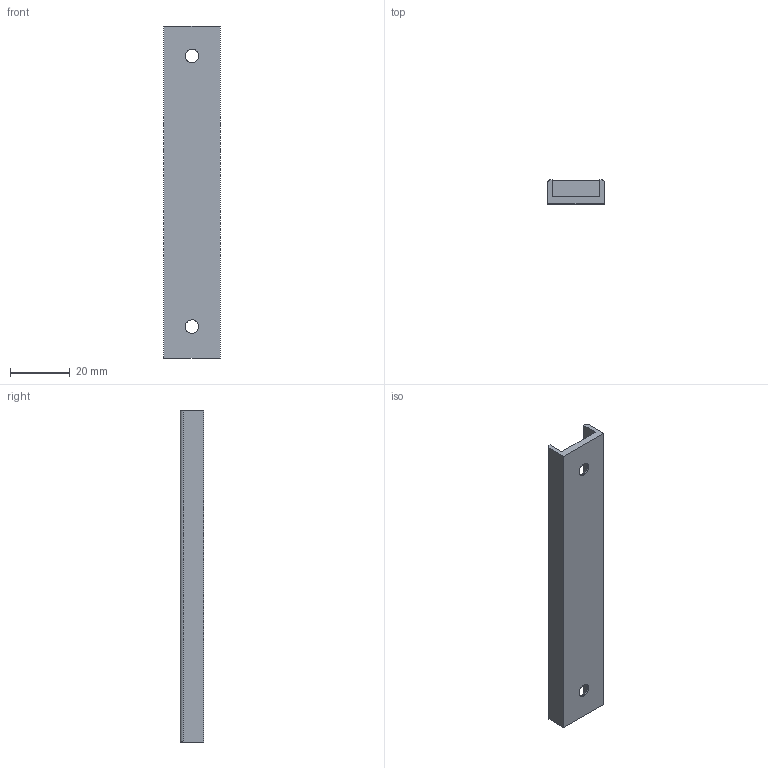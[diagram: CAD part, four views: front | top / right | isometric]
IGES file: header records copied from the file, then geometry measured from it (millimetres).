
Global section: file name: end_guide; native system: Autodesk Inventor 2015; preprocessor: unknown; author: uidn2323; date: 20160121.110655; units: millimetre
Bounding box: 19 x 8 x 111 mm (x, y, z)
Volume: 6991.2 mm3; surface area: 7396.4 mm2
Topology: 1 solids, 1 shells, 16 faces, 40 edges, 26 vertices
Faces by surface type: bspline 16
